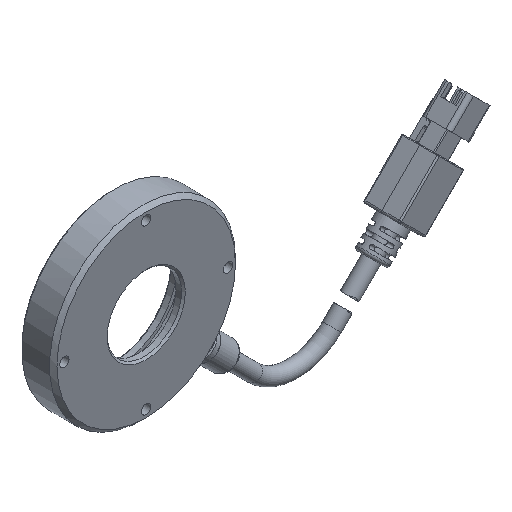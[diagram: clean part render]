
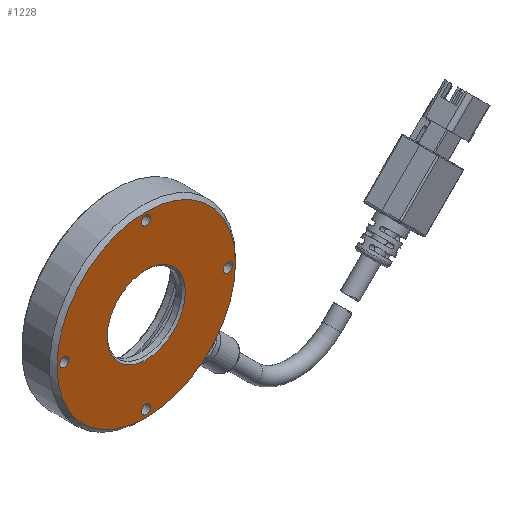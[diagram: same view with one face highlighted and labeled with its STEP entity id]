
A CAD part, isometric view. The second image highlights one B-rep face of the part: STEP entity #1228.
In plain terms, the highlighted planar face has unit normal (0, -1, 0).
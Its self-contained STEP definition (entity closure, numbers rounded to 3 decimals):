
#82 = EDGE_LOOP ( 'NONE', ( #7781 ) ) ;
#168 = DIRECTION ( 'NONE',  ( 0., 1., 0. ) ) ;
#361 = VERTEX_POINT ( 'NONE', #5672 ) ;
#780 = EDGE_LOOP ( 'NONE', ( #6501 ) ) ;
#787 = DIRECTION ( 'NONE',  ( -1., 0., 0. ) ) ;
#885 = CARTESIAN_POINT ( 'NONE',  ( 22., -9., 0. ) ) ;
#959 = DIRECTION ( 'NONE',  ( 1., 0., 0. ) ) ;
#1017 = CIRCLE ( 'NONE', #4945, 24. ) ;
#1116 = FACE_BOUND ( 'NONE', #4387, .T. ) ;
#1228 = ADVANCED_FACE ( 'NONE', ( #2663, #1116, #9607, #1634, #4082, #2406 ), #8495, .F. ) ;
#1264 = VERTEX_POINT ( 'NONE', #9755 ) ;
#1504 = EDGE_LOOP ( 'NONE', ( #5822 ) ) ;
#1634 = FACE_BOUND ( 'NONE', #82, .T. ) ;
#2226 = ORIENTED_EDGE ( 'NONE', *, *, #8701, .F. ) ;
#2406 = FACE_OUTER_BOUND ( 'NONE', #1504, .T. ) ;
#2552 = CARTESIAN_POINT ( 'NONE',  ( 0., -9., 0. ) ) ;
#2554 = VERTEX_POINT ( 'NONE', #8247 ) ;
#2654 = CARTESIAN_POINT ( 'NONE',  ( 0., -9., 0. ) ) ;
#2663 = FACE_BOUND ( 'NONE', #780, .T. ) ;
#2665 = AXIS2_PLACEMENT_3D ( 'NONE', #4061, #8994, #787 ) ;
#2943 = CIRCLE ( 'NONE', #6177, 1.25 ) ;
#3133 = AXIS2_PLACEMENT_3D ( 'NONE', #2552, #9111, #4178 ) ;
#3222 = CIRCLE ( 'NONE', #2665, 1.25 ) ;
#3335 = DIRECTION ( 'NONE',  ( -1., 0., 0. ) ) ;
#3555 = CARTESIAN_POINT ( 'NONE',  ( 0., -9., 10. ) ) ;
#4061 = CARTESIAN_POINT ( 'NONE',  ( -22., -9., 0. ) ) ;
#4082 = FACE_BOUND ( 'NONE', #4876, .T. ) ;
#4135 = DIRECTION ( 'NONE',  ( -1., 0., 0. ) ) ;
#4141 = EDGE_CURVE ( 'NONE', #6530, #6530, #4855, .T. ) ;
#4178 = DIRECTION ( 'NONE',  ( 1., 0., 0. ) ) ;
#4251 = CIRCLE ( 'NONE', #8484, 1.25 ) ;
#4387 = EDGE_LOOP ( 'NONE', ( #7533 ) ) ;
#4393 = ORIENTED_EDGE ( 'NONE', *, *, #4141, .T. ) ;
#4746 = VERTEX_POINT ( 'NONE', #6594 ) ;
#4855 = CIRCLE ( 'NONE', #3133, 10.5 ) ;
#4876 = EDGE_LOOP ( 'NONE', ( #4393 ) ) ;
#4945 = AXIS2_PLACEMENT_3D ( 'NONE', #2654, #5948, #959 ) ;
#5672 = CARTESIAN_POINT ( 'NONE',  ( -23.25, -9., 0. ) ) ;
#5822 = ORIENTED_EDGE ( 'NONE', *, *, #6565, .T. ) ;
#5869 = CARTESIAN_POINT ( 'NONE',  ( -1.25, -9., 22. ) ) ;
#5914 = DIRECTION ( 'NONE',  ( 1., 0., 0. ) ) ;
#5948 = DIRECTION ( 'NONE',  ( 0., -1., 0. ) ) ;
#6177 = AXIS2_PLACEMENT_3D ( 'NONE', #6879, #8473, #6780 ) ;
#6501 = ORIENTED_EDGE ( 'NONE', *, *, #8143, .F. ) ;
#6530 = VERTEX_POINT ( 'NONE', #10572 ) ;
#6565 = EDGE_CURVE ( 'NONE', #4746, #4746, #1017, .T. ) ;
#6594 = CARTESIAN_POINT ( 'NONE',  ( 24., -9., 0. ) ) ;
#6652 = EDGE_CURVE ( 'NONE', #2554, #2554, #10663, .T. ) ;
#6780 = DIRECTION ( 'NONE',  ( -1., 0., 0. ) ) ;
#6879 = CARTESIAN_POINT ( 'NONE',  ( 0., -9., 22. ) ) ;
#7030 = AXIS2_PLACEMENT_3D ( 'NONE', #3555, #168, #5914 ) ;
#7509 = DIRECTION ( 'NONE',  ( 0., -1., 0. ) ) ;
#7533 = ORIENTED_EDGE ( 'NONE', *, *, #7782, .F. ) ;
#7536 = DIRECTION ( 'NONE',  ( 0., -1., 0. ) ) ;
#7781 = ORIENTED_EDGE ( 'NONE', *, *, #6652, .F. ) ;
#7782 = EDGE_CURVE ( 'NONE', #361, #361, #3222, .T. ) ;
#8142 = EDGE_LOOP ( 'NONE', ( #2226 ) ) ;
#8143 = EDGE_CURVE ( 'NONE', #1264, #1264, #4251, .T. ) ;
#8247 = CARTESIAN_POINT ( 'NONE',  ( 20.75, -9., 0. ) ) ;
#8473 = DIRECTION ( 'NONE',  ( 0., -1., 0. ) ) ;
#8484 = AXIS2_PLACEMENT_3D ( 'NONE', #10483, #7509, #4135 ) ;
#8495 = PLANE ( 'NONE',  #7030 ) ;
#8701 = EDGE_CURVE ( 'NONE', #9637, #9637, #2943, .T. ) ;
#8994 = DIRECTION ( 'NONE',  ( 0., -1., 0. ) ) ;
#9111 = DIRECTION ( 'NONE',  ( 0., 1., 0. ) ) ;
#9607 = FACE_BOUND ( 'NONE', #8142, .T. ) ;
#9637 = VERTEX_POINT ( 'NONE', #5869 ) ;
#9755 = CARTESIAN_POINT ( 'NONE',  ( -1.25, -9., -22. ) ) ;
#10442 = AXIS2_PLACEMENT_3D ( 'NONE', #885, #7536, #3335 ) ;
#10483 = CARTESIAN_POINT ( 'NONE',  ( 0., -9., -22. ) ) ;
#10572 = CARTESIAN_POINT ( 'NONE',  ( 10.5, -9., 0. ) ) ;
#10663 = CIRCLE ( 'NONE', #10442, 1.25 ) ;
